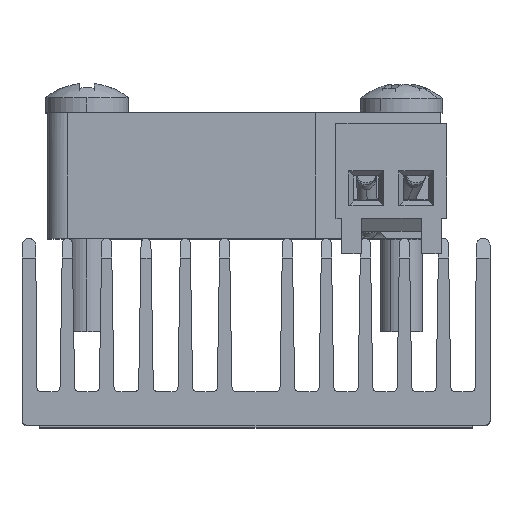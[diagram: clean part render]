
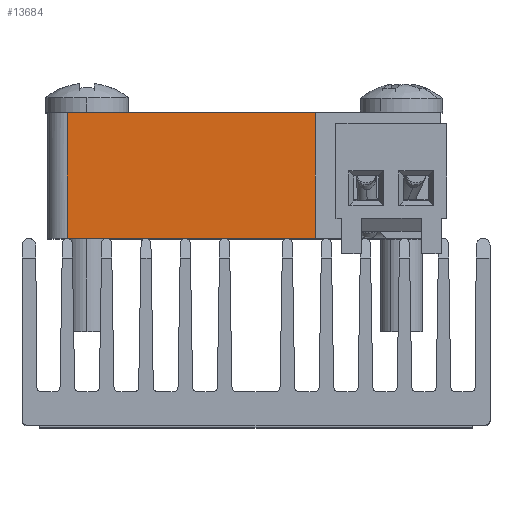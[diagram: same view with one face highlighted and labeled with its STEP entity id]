
A CAD part, top view. The second image highlights one B-rep face of the part: STEP entity #13684.
In plain terms, the highlighted planar face has unit normal (0, 0, 1).
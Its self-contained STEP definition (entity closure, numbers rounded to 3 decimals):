
#176 = CARTESIAN_POINT ( 'NONE',  ( -1.1, 24.641, 27.696 ) ) ;
#387 = DIRECTION ( 'NONE',  ( 0., -1., 0. ) ) ;
#1174 = LINE ( 'NONE', #13299, #9959 ) ;
#1958 = EDGE_CURVE ( 'NONE', #6679, #18142, #1174, .T. ) ;
#2430 = CARTESIAN_POINT ( 'NONE',  ( 17.9, 24.541, 27.696 ) ) ;
#3149 = ORIENTED_EDGE ( 'NONE', *, *, #1958, .F. ) ;
#3222 = PLANE ( 'NONE',  #5499 ) ;
#3527 = ORIENTED_EDGE ( 'NONE', *, *, #16900, .F. ) ;
#5075 = ORIENTED_EDGE ( 'NONE', *, *, #12368, .F. ) ;
#5364 = LINE ( 'NONE', #2430, #7340 ) ;
#5481 = CARTESIAN_POINT ( 'NONE',  ( 11.5, 24.541, 27.696 ) ) ;
#5499 = AXIS2_PLACEMENT_3D ( 'NONE', #14901, #8972, #387 ) ;
#5977 = DIRECTION ( 'NONE',  ( 0., -1., 0. ) ) ;
#5990 = VERTEX_POINT ( 'NONE', #11797 ) ;
#6679 = VERTEX_POINT ( 'NONE', #18817 ) ;
#7134 = DIRECTION ( 'NONE',  ( -1., 0., 0. ) ) ;
#7340 = VECTOR ( 'NONE', #18394, 1000. ) ;
#8582 = EDGE_LOOP ( 'NONE', ( #3527, #18065, #3149, #5075 ) ) ;
#8972 = DIRECTION ( 'NONE',  ( 0., 0., -1. ) ) ;
#9436 = LINE ( 'NONE', #176, #11980 ) ;
#9959 = VECTOR ( 'NONE', #7134, 1000. ) ;
#11514 = LINE ( 'NONE', #16190, #16822 ) ;
#11797 = CARTESIAN_POINT ( 'NONE',  ( -1.1, 24.541, 27.696 ) ) ;
#11980 = VECTOR ( 'NONE', #12132, 1000. ) ;
#12132 = DIRECTION ( 'NONE',  ( 0., 1., 0. ) ) ;
#12368 = EDGE_CURVE ( 'NONE', #14081, #6679, #11514, .T. ) ;
#13069 = CARTESIAN_POINT ( 'NONE',  ( -1.1, 18.141, 27.696 ) ) ;
#13299 = CARTESIAN_POINT ( 'NONE',  ( 7.9, 18.141, 27.696 ) ) ;
#13684 = ADVANCED_FACE ( 'NONE', ( #18951 ), #3222, .F. ) ;
#14081 = VERTEX_POINT ( 'NONE', #5481 ) ;
#14901 = CARTESIAN_POINT ( 'NONE',  ( 17.9, 24.641, 27.696 ) ) ;
#15670 = EDGE_CURVE ( 'NONE', #18142, #5990, #9436, .T. ) ;
#16190 = CARTESIAN_POINT ( 'NONE',  ( 11.5, 24.641, 27.696 ) ) ;
#16822 = VECTOR ( 'NONE', #5977, 1000. ) ;
#16900 = EDGE_CURVE ( 'NONE', #5990, #14081, #5364, .T. ) ;
#18065 = ORIENTED_EDGE ( 'NONE', *, *, #15670, .F. ) ;
#18142 = VERTEX_POINT ( 'NONE', #13069 ) ;
#18394 = DIRECTION ( 'NONE',  ( 1., 0., 0. ) ) ;
#18817 = CARTESIAN_POINT ( 'NONE',  ( 11.5, 18.141, 27.696 ) ) ;
#18951 = FACE_OUTER_BOUND ( 'NONE', #8582, .T. ) ;
